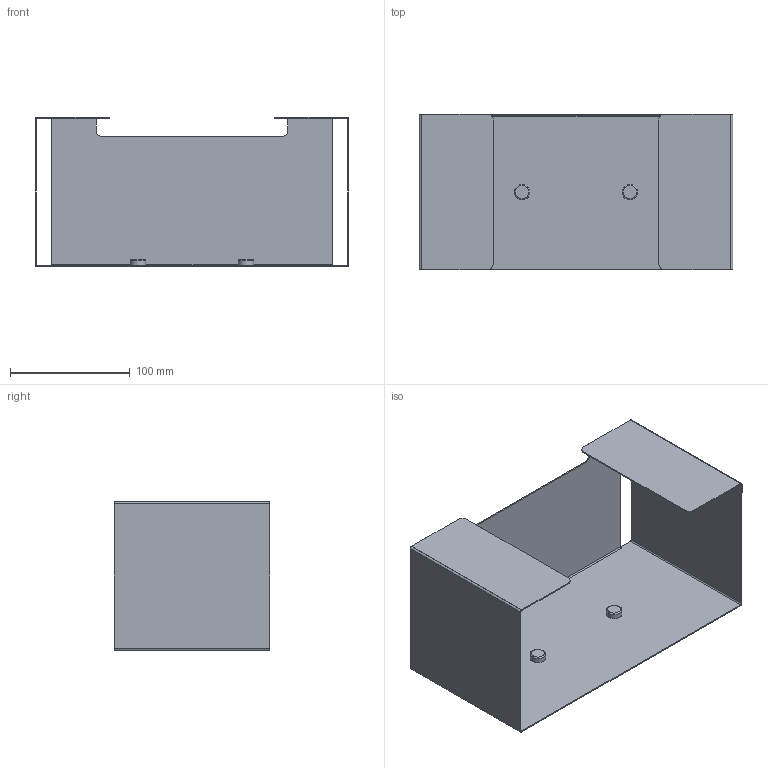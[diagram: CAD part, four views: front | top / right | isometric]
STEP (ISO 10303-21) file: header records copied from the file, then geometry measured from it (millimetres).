
FILE_DESCRIPTION (( 'STEP AP214' ), '1' );
FILE_NAME ('Pojemnik na reczniki papierowe CRESTO montaz nascienny.STEP', '2023-01-16T07:38:29', ( '' ), ( '' ), 'SwSTEP 2.0', 'SolidWorks 2021', '' );
FILE_SCHEMA (( 'AUTOMOTIVE_DESIGN' ));
Length unit declared in the file: millimetre
Products named in the file (3): zaslepka sruby 13mm; Pojemnik na reczniki papierowe CRESTO montaz nascienny; 09-001-0237-W-00-00
Assembly tree (3 placements, depth 2):
  Pojemnik na reczniki papierowe CRESTO montaz nascienny
    09-001-0237-W-00-00
    zaslepka sruby 13mm  x2
Bounding box: 262 x 130 x 125 mm (x, y, z)
Volume: 109255.9 mm3; surface area: 218621.9 mm2
Topology: 3 solids, 3 shells, 76 faces, 168 edges, 98 vertices
Faces by surface type: plane 48, cylinder 24, torus 4
Entity records: 2038 total; most frequent: DIRECTION 360, CARTESIAN_POINT 326, ORIENTED_EDGE 316, EDGE_CURVE 158, AXIS2_PLACEMENT_3D 126, LINE 108, VECTOR 108, VERTEX_POINT 92
